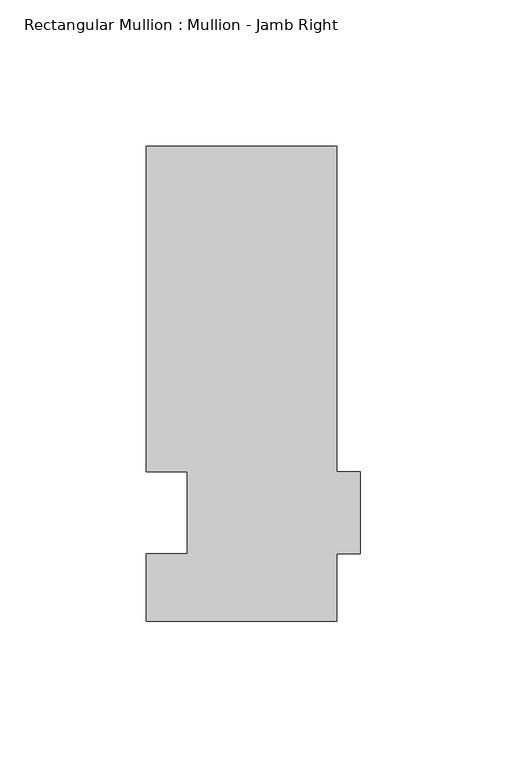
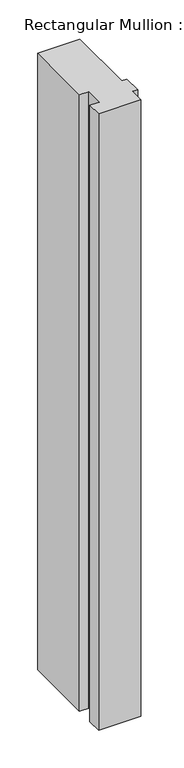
"""IFC4 building model written with IfcOpenShell, lengths in millimetres: member geometry, Rectangular Mullion : Mullion - Jamb Right."""

from ifc_helpers import new_model, si_unit, frame, origin, place, context, project, spatial, polyline, outline, extrude, source, transform, mapped, element, save


def rectangular_mullion_mullion_jamb_right_0f8f1cf8(model_context):
    return source(origin(), model_context, "Body", "SweptSolid", [
        extrude(outline(polyline([(-8.0, -14.0), (-8.0, -37.0), (-73.0, -37.0), (-73.0, -14.0), (-59.0, -14.0), (-59.0, 14.0), (-73.0, 14.0), (-73.0, 125.0), (-8.0, 125.0), (-8.0, 14.0), (0.0, 14.0), (0.0, -14.0), (-8.0, -14.0)])), frame((0.0, 0.0, -1000.0), z_axis=(0.0, 0.0, 1.0), x_axis=(1.0, 0.0, 0.0)), (0.0, 0.0, 1.0), 1000.0),
    ])


if __name__ == "__main__":
    model = new_model("IFC4")
    model_context = context("Model", 3, world=origin())
    ifc_project = project(units=[si_unit("LENGTHUNIT", "METRE", prefix="MILLI")], contexts=[model_context])
    site = spatial("IfcSite", under=ifc_project)
    building = spatial("IfcBuilding", under=site)
    placement = place(None, origin())
    rectangular_mullion_mullion_jamb_right_shape = rectangular_mullion_mullion_jamb_right_0f8f1cf8(model_context)
    element("IfcMember", 1, ObjectType="Rectangular Mullion : Mullion - Jamb Right", at=placement, inside=building, context=model_context, shape_type="MappedRepresentation", body=[
        mapped(rectangular_mullion_mullion_jamb_right_shape, transform((0.0, 0.0, 0.0), x_axis=(1.0, 0.0, 0.0), y_axis=(0.0, 1.0, 0.0), z_axis=(0.0, 0.0, 1.0))),
    ])
    save(model, "model.ifc")
